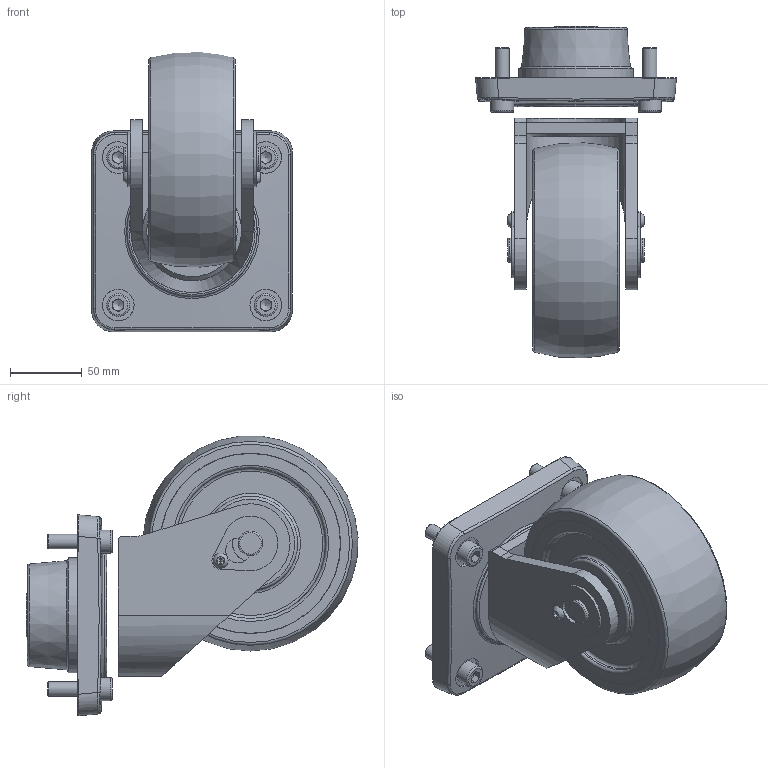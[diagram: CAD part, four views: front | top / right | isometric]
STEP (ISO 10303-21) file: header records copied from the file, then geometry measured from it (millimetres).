
FILE_DESCRIPTION (( 'STEP AP203' ), '1' );
FILE_NAME ('6渡創笭勀砃謫.STEP', '2018-05-04T14:46:10', ( '' ), ( '' ), 'SwSTEP 2.0', 'SolidWorks 2016', '' );
FILE_SCHEMA (( 'CONFIG_CONTROL_DESIGN' ));
Length unit declared in the file: millimetre
Products named in the file (2): 6渡創笭勀砃謫
Bounding box: 139.63 x 230.74 x 194.26 mm (x, y, z)
Surface area: 188222.3 mm2 (no closed solid volume)
Topology: 0 solids, 26 shells, 272 faces, 851 edges, 567 vertices
Faces by surface type: plane 112, cylinder 49, torus 43, cone 25, sphere 22, bspline 21
Full cylindrical faces by diameter (mm): 10 x4, 11 x4, 12 x2, 16 x4, 17 x2, 22 x4, 28 x1, 30 x1, 38.333 x1, 46.667 x1, 55 x1, 80 x1, 125 x2, 125.4 x2
Entity records: 11307 total; most frequent: CARTESIAN_POINT 4782, DIRECTION 1252, ORIENTED_EDGE 1108, EDGE_CURVE 689, AXIS2_PLACEMENT_3D 516, VERTEX_POINT 506, EDGE_LOOP 422, FACE_OUTER_BOUND 310
